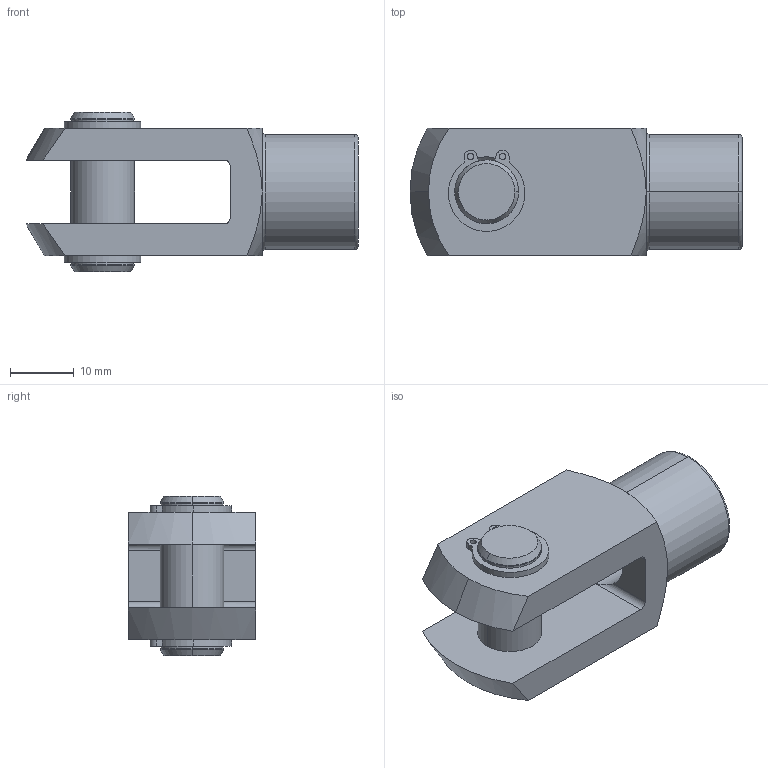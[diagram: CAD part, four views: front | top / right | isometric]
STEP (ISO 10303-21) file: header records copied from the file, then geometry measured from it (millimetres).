
FILE_DESCRIPTION (( 'STEP AP203' ), '1' );
FILE_NAME ('65616.W0103.step', '2014-01-18T10:31:48', ( 'User' ), ( '' ), 'SwSTEP 2.0', 'SolidWorks 2009', '' );
FILE_SCHEMA (( 'CONFIG_CONTROL_DESIGN' ));
Length unit declared in the file: millimetre
Products named in the file (4): 65616.W0103; Part1_65636.W0103; Part2_65666.W0010; Part3_65678.W0010
Assembly tree (4 placements, depth 2):
  65616.W0103
    Part2_65666.W0010
    Part3_65678.W0010  x2
    Part1_65636.W0103
Bounding box: 52 x 20 x 25 mm (x, y, z)
Volume: 11316.9 mm3; surface area: 6589.2 mm2
Topology: 4 solids, 4 shells, 95 faces, 227 edges, 144 vertices
Faces by surface type: cylinder 46, plane 28, cone 17, torus 4
Entity records: 2755 total; most frequent: CARTESIAN_POINT 487, DIRECTION 423, ORIENTED_EDGE 358, EDGE_CURVE 179, AXIS2_PLACEMENT_3D 176, VERTEX_POINT 112, CIRCLE 92, EDGE_LOOP 91
